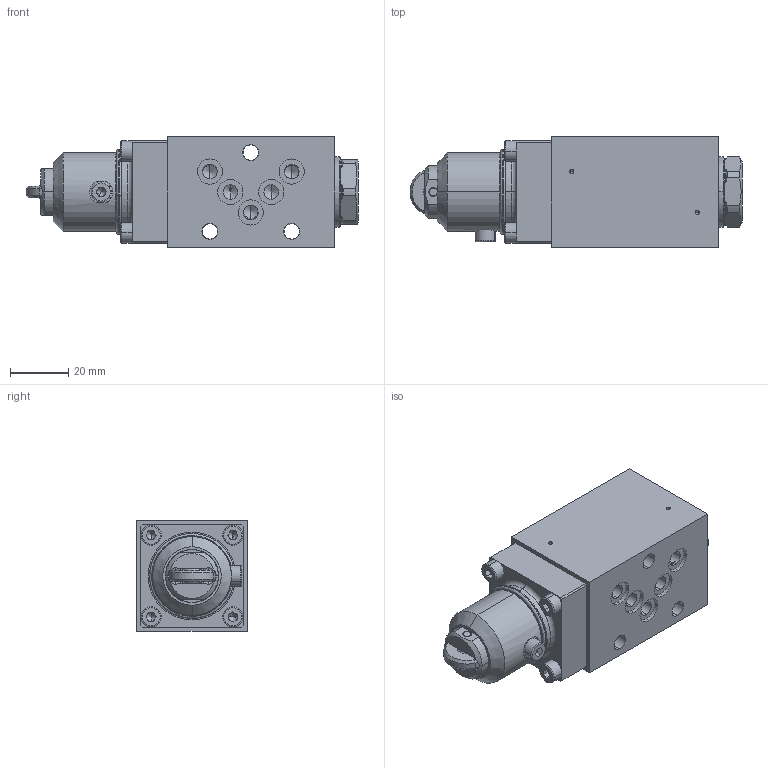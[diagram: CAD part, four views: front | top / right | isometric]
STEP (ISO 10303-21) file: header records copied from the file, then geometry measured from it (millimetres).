
FILE_DESCRIPTION (( 'STEP AP214' ), '1' );
FILE_NAME ('WDTFA04-4_2-Aside.STEP', '2019-06-26T11:20:22', ( '' ), ( '' ), 'SwSTEP 2.0', 'SolidWorks 2018', '' );
FILE_SCHEMA (( 'AUTOMOTIVE_DESIGN' ));
Length unit declared in the file: millimetre
Products named in the file (1): WDTFA04-4_2-Aside
Bounding box: 113.67 x 38 x 38 mm (x, y, z)
Volume: 112265.3 mm3; surface area: 24195.1 mm2
Topology: 5 solids, 13 shells, 514 faces, 1217 edges, 744 vertices
Faces by surface type: plane 205, cylinder 152, cone 83, torus 42, bspline 32
Entity records: 22316 total; most frequent: CARTESIAN_POINT 5000, DIRECTION 2459, ORIENTED_EDGE 2366, EDGE_CURVE 1183, AXIS2_PLACEMENT_3D 945, VERTEX_POINT 744, EDGE_LOOP 589, LINE 569
